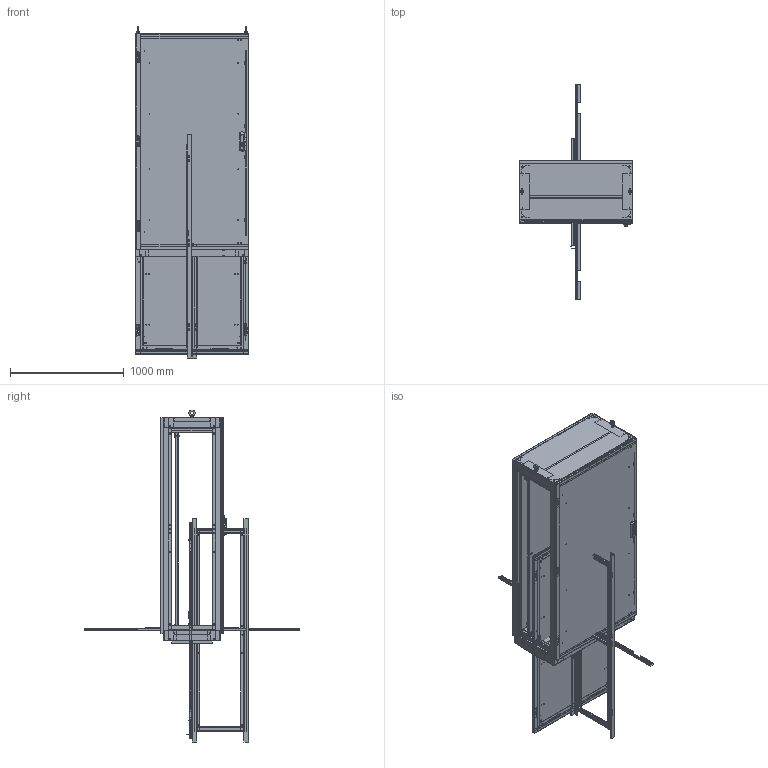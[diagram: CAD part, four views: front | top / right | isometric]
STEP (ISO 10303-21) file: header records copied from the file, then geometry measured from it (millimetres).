
FILE_DESCRIPTION( ( 'Unknown' ), '1' );
FILE_NAME( 'Q:/IME/WEB DRAWINGS/IME18105.stp', 'Unknown', ( 'Unknown' ), ( 'Unknown' ), 'XStep 1.0', 'Unknown', ' ' );
FILE_SCHEMA( ( 'CONFIG_CONTROL_DESIGN' ) );
Length unit declared in the file: millimetre
Products named in the file (99): Assem1; Assem2; Assem3; Assem4; Assem5; Assem6; Assem7; Assem8; Assem9; Assem10; Assem11; Assem12; Assem13; Assem14; Assem15; Assem16; Assem17; Assem18; 1; 2; 3; 4; 5; 6; 7; 8; 9; 10; 11; 12; 13; 14; 15; 16; 17; 18; 19; 20; 21; 22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
Bounding box: 1000.32 x 1892.5 x 2917.13 mm (x, y, z)
Volume: 56621638.2 mm3; surface area: 61578675 mm2
Topology: 387 solids, 393 shells, 9607 faces, 24570 edges, 16071 vertices
Faces by surface type: plane 6037, cylinder 2833, torus 334, cone 264, bspline 139
Full cylindrical faces by diameter (mm): 2.464 x12, 3.175 x3, 3.454 x16, 3.607 x12, 4.166 x32, 4.216 x12, 4.318 x12, 4.826 x16, 4.851 x8, 4.928 x12, 5.08 x24, 5.105 x12, 5.156 x12, 5.537 x86, 5.893 x8, 5.994 x14, 6 x32, 6.35 x46, 6.411 x15, 7.137 x16, 7.366 x12, 7.442 x12, 7.62 x18, 7.938 x80, 8.001 x24, 8.026 x8, 9.525 x18, 9.804 x23, 10.999 x8, 11.113 x12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
Entity records: 75269 total; most frequent: CARTESIAN_POINT 16612, DIRECTION 11337, ORIENTED_EDGE 10710, EDGE_CURVE 5355, AXIS2_PLACEMENT_3D 3824, LINE 3689, VECTOR 3689, VERTEX_POINT 3641
